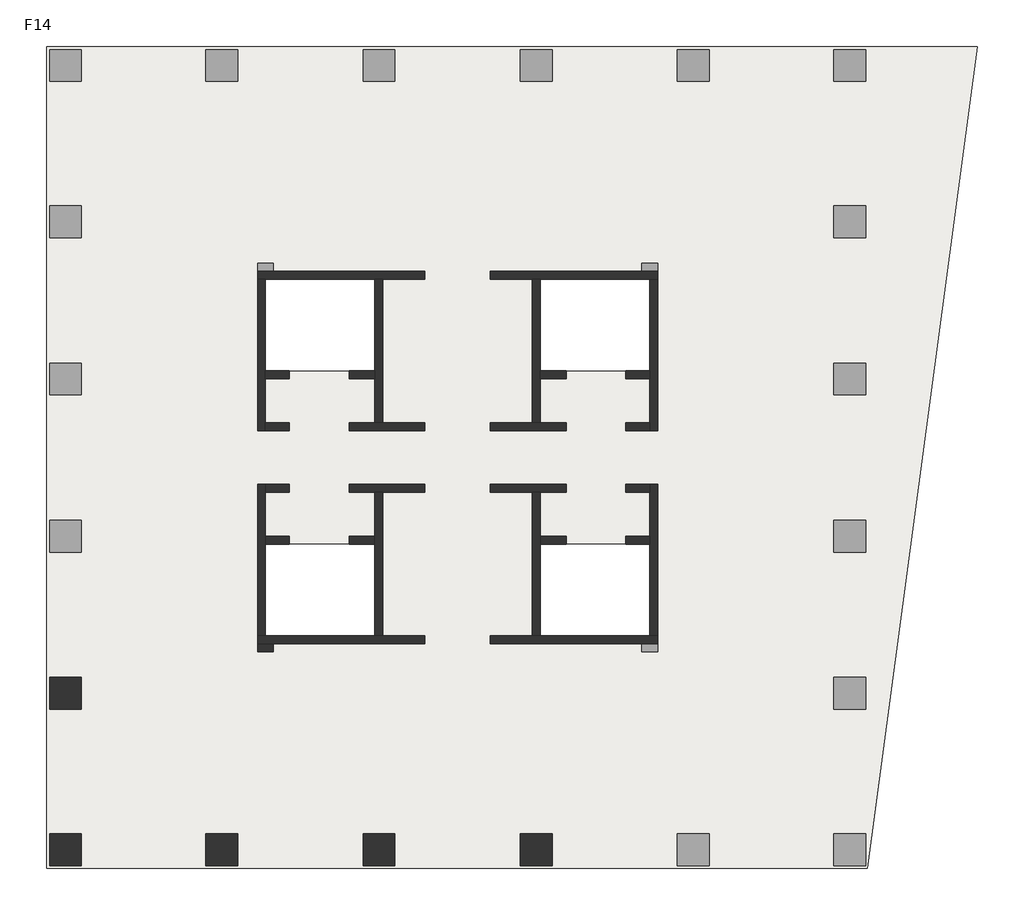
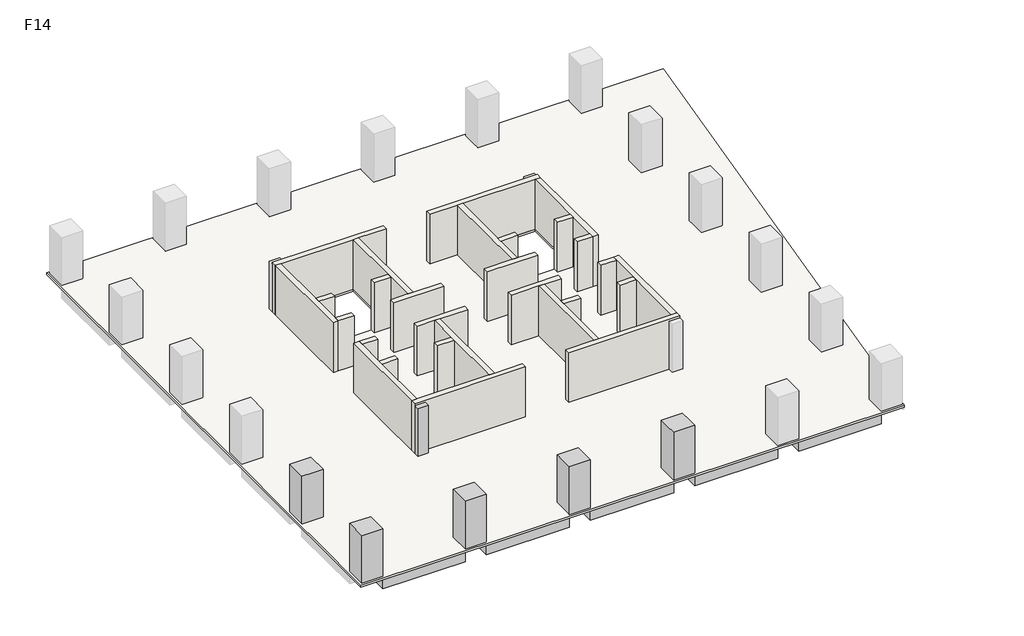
# One storey, part 1 of 2: 28 walls, 6 columns, 5 beams, 1 slab.
"""IFC4 building model written with IfcOpenShell, lengths in millimetres."""

from ifc_helpers import new_model, si_unit, frame, origin, place, context, project, spatial, polyline, outline, extrude, faceted_brep, element, save

model = new_model("IFC4")

# Units and contexts
model_context = context("Model", 3, world=origin())
ifc_project = project(units=[si_unit("LENGTHUNIT", "METRE", prefix="MILLI")], contexts=[model_context])

# Site, building, storey
site = spatial("IfcSite", under=ifc_project)
building = spatial("IfcBuilding", under=site)
storey = spatial("IfcBuildingStorey", under=building, Name="F14", Elevation=56000.0)

# Beams
placement = place(None, origin())
element("IfcBeam", 1, ObjectType="混凝土 - 矩形梁 : KL(5)-800x1000", at=placement, inside=storey, context=model_context, shape_type="SweptSolid", body=[
    extrude(outline(polyline([(-12472.6742169, -13948.9501342), (-12472.6742169, -13148.9501342), (-6222.6742169, -13148.9501342), (-6222.6742169, -13948.9501342), (-12472.6742169, -13948.9501342)])), frame((0.0, 0.0, 55000.0), z_axis=(0.0, 0.0, 1.0), x_axis=(1.0, 0.0, 0.0)), (0.0, 0.0, 1.0), 840.0),
    extrude(outline(polyline([(25327.3257831, -13148.9501342), (25327.3257831, -13948.9501342), (19077.3257831, -13948.9501342), (19077.3257831, -13148.9501342), (25327.3257831, -13148.9501342)])), frame((0.0, 0.0, 55000.0), z_axis=(0.0, 0.0, 1.0), x_axis=(1.0, 0.0, 0.0)), (0.0, 0.0, 1.0), 840.0),
    extrude(outline(polyline([(-4622.6742169, -13948.9501342), (-4622.6742169, -13148.9501342), (1677.3257831, -13148.9501342), (1677.3257831, -13948.9501342), (-4622.6742169, -13948.9501342)])), frame((0.0, 0.0, 55000.0), z_axis=(0.0, 0.0, 1.0), x_axis=(1.0, 0.0, 0.0)), (0.0, 0.0, 1.0), 840.0),
    extrude(outline(polyline([(3277.3257831, -13948.9501342), (3277.3257831, -13148.9501342), (9577.3257831, -13148.9501342), (9577.3257831, -13948.9501342), (3277.3257831, -13948.9501342)])), frame((0.0, 0.0, 55000.0), z_axis=(0.0, 0.0, 1.0), x_axis=(1.0, 0.0, 0.0)), (0.0, 0.0, 1.0), 840.0),
    extrude(outline(polyline([(11177.3257831, -13948.9501342), (11177.3257831, -13148.9501342), (17477.3257831, -13148.9501342), (17477.3257831, -13948.9501342), (11177.3257831, -13948.9501342)])), frame((0.0, 0.0, 55000.0), z_axis=(0.0, 0.0, 1.0), x_axis=(1.0, 0.0, 0.0)), (0.0, 0.0, 1.0), 840.0),
])
element("IfcBeam", 2, ObjectType="混凝土 - 矩形梁 : L1-800x500", at=placement, inside=storey, context=model_context, shape_type="Brep", body=[
    faceted_brep([(-12472.6742169, -5512.1353397, 55500.0), (-3746.9473979, -3341.556529, 55500.0), (-3173.6696907, -3198.9501342, 55500.0), (-3173.6696907, -3198.9501342, 55840.0), (-3746.9473979, -3341.556529, 55840.0), (-12472.6742169, -5512.1353397, 55840.0), (-3622.6742169, -3198.9501342, 55500.0), (-12472.6742169, -4687.7549784, 55500.0), (-3622.6742169, -2486.2624411, 55500.0), (-3622.6742169, -2798.9501342, 55500.0), (-12472.6742169, -4687.7549784, 55840.0), (-3622.6742169, -2486.2624411, 55840.0), (-3622.6742169, -3198.9501342, 55840.0)], [[[0, 1, 2, 3, 4, 5]], [[6, 2, 1, 0, 7, 8, 9]], [[8, 7, 10, 11]], [[2, 6, 12, 3]], [[9, 8, 11, 12, 6]], [[7, 0, 5, 10]], [[5, 4, 3, 12, 11, 10]]]),
])
element("IfcBeam", 3, ObjectType="混凝土 - 矩形梁 : L1-800x500", at=placement, inside=storey, context=model_context, shape_type="SweptSolid", body=[
    extrude(outline(polyline([(-3746.9473979, -3341.556529), (-3173.6696907, -3198.9501342), (-2898.7618154, -3198.9501342), (-4843.6893517, -12348.9501342), (-5661.5624638, -12348.9501342), (-3746.9473979, -3341.556529)])), frame((0.0, 0.0, 55500.0), z_axis=(0.0, 0.0, 1.0), x_axis=(1.0, 0.0, 0.0)), (0.0, 0.0, 1.0), 340.0),
])
element("IfcBeam", 4, ObjectType="混凝土 - 矩形梁 : L1-800x500", at=placement, inside=storey, context=model_context, shape_type="SweptSolid", body=[
    extrude(outline(polyline([(2877.3257831, -12348.9501342), (2077.3257831, -12348.9501342), (2077.3257831, -2798.9501342), (2877.3257831, -2798.9501342), (2877.3257831, -12348.9501342)])), frame((0.0, 0.0, 55500.0), z_axis=(0.0, 0.0, 1.0), x_axis=(1.0, 0.0, 0.0)), (0.0, 0.0, 1.0), 340.0),
])
element("IfcBeam", 5, ObjectType="混凝土 - 矩形梁 : L1-800x500", at=placement, inside=storey, context=model_context, shape_type="SweptSolid", body=[
    extrude(outline(polyline([(10777.3257831, -12348.9501342), (9977.3257831, -12348.9501342), (9977.3257831, -2798.9501342), (10777.3257831, -2798.9501342), (10777.3257831, -12348.9501342)])), frame((0.0, 0.0, 55500.0), z_axis=(0.0, 0.0, 1.0), x_axis=(1.0, 0.0, 0.0)), (0.0, 0.0, 1.0), 340.0),
])

# Columns
element("IfcColumn", 6, ObjectType="混凝土 - 矩形 - 柱 : Z1-1600x1600", at=placement, inside=storey, context=model_context, shape_type="Brep", body=[
    faceted_brep([(-12472.6742169, -4498.9501342, 56000.0), (-12472.6742169, -6098.9501342, 56000.0), (-14072.6742169, -6098.9501342, 56000.0), (-14072.6742169, -4498.9501342, 56000.0), (-12472.6742169, -4498.9501342, 59840.0), (-12472.6742169, -6098.9501342, 59840.0), (-13272.6742169, -6098.9501342, 59840.0), (-14072.6742169, -6098.9501342, 59840.0), (-14072.6742169, -6098.9501342, 59000.0), (-14072.6742169, -4498.9501342, 59840.0), (-14072.6742169, -4498.9501342, 59000.0), (-13272.6742169, -4498.9501342, 59840.0)], [[[0, 1, 2, 3]], [[1, 0, 4, 5]], [[2, 1, 5, 6, 7, 8]], [[3, 2, 8, 7, 9, 10]], [[0, 3, 10, 9, 11, 4]], [[5, 4, 11, 9, 7, 6]]]),
])
element("IfcColumn", 7, ObjectType="混凝土 - 矩形 - 柱 : Z1-1600x1600", at=placement, inside=storey, context=model_context, shape_type="SweptSolid", body=[
    extrude(outline(polyline([(-12472.6742169, -12348.9501342), (-12472.6742169, -13948.9501342), (-14072.6742169, -13948.9501342), (-14072.6742169, -12348.9501342), (-12472.6742169, -12348.9501342)])), frame((0.0, 0.0, 56000.0), z_axis=(0.0, 0.0, 1.0), x_axis=(1.0, 0.0, 0.0)), (0.0, 0.0, 1.0), 3840.0),
])
element("IfcColumn", 8, ObjectType="混凝土 - 矩形 - 柱 : Z1-1600x1600", at=placement, inside=storey, context=model_context, shape_type="Brep", body=[
    faceted_brep([(-4622.6742169, -12348.9501342, 56000.0), (-4622.6742169, -13948.9501342, 56000.0), (-6222.6742169, -13948.9501342, 56000.0), (-6222.6742169, -12348.9501342, 56000.0), (-4622.6742169, -12348.9501342, 59840.0), (-4622.6742169, -13148.9501342, 59840.0), (-4622.6742169, -13948.9501342, 59840.0), (-4622.6742169, -13948.9501342, 59000.0), (-6222.6742169, -13948.9501342, 59840.0), (-6222.6742169, -13948.9501342, 59000.0), (-6222.6742169, -13148.9501342, 59840.0), (-6222.6742169, -12348.9501342, 59840.0)], [[[0, 1, 2, 3]], [[1, 0, 4, 5, 6, 7]], [[2, 1, 7, 6, 8, 9]], [[3, 2, 9, 8, 10, 11]], [[0, 3, 11, 4]], [[6, 5, 4, 11, 10, 8]]]),
])
element("IfcColumn", 9, ObjectType="混凝土 - 矩形 - 柱 : Z1-1600x1600", at=placement, inside=storey, context=model_context, shape_type="Brep", body=[
    faceted_brep([(3277.3257831, -12348.9501342, 56000.0), (3277.3257831, -13948.9501342, 56000.0), (1677.3257831, -13948.9501342, 56000.0), (1677.3257831, -12348.9501342, 56000.0), (3277.3257831, -12348.9501342, 59840.0), (3277.3257831, -13148.9501342, 59840.0), (3277.3257831, -13948.9501342, 59840.0), (3277.3257831, -13948.9501342, 59000.0), (1677.3257831, -13948.9501342, 59840.0), (1677.3257831, -13948.9501342, 59000.0), (1677.3257831, -13148.9501342, 59840.0), (1677.3257831, -12348.9501342, 59840.0)], [[[0, 1, 2, 3]], [[1, 0, 4, 5, 6, 7]], [[2, 1, 7, 6, 8, 9]], [[3, 2, 9, 8, 10, 11]], [[0, 3, 11, 4]], [[6, 5, 4, 11, 10, 8]]]),
])
element("IfcColumn", 10, ObjectType="混凝土 - 矩形 - 柱 : Z1-1600x1600", at=placement, inside=storey, context=model_context, shape_type="Brep", body=[
    faceted_brep([(11177.3257831, -12348.9501342, 56000.0), (11177.3257831, -13948.9501342, 56000.0), (9577.3257831, -13948.9501342, 56000.0), (9577.3257831, -12348.9501342, 56000.0), (11177.3257831, -12348.9501342, 59840.0), (11177.3257831, -13148.9501342, 59840.0), (11177.3257831, -13948.9501342, 59840.0), (11177.3257831, -13948.9501342, 59000.0), (9577.3257831, -13948.9501342, 59840.0), (9577.3257831, -13948.9501342, 59000.0), (9577.3257831, -13148.9501342, 59840.0), (9577.3257831, -12348.9501342, 59840.0)], [[[0, 1, 2, 3]], [[1, 0, 4, 5, 6, 7]], [[2, 1, 7, 6, 8, 9]], [[3, 2, 9, 8, 10, 11]], [[0, 3, 11, 4]], [[6, 5, 4, 11, 10, 8]]]),
])
element("IfcColumn", 11, ObjectType="混凝土 - 矩形 - 柱 : Z2-800x800", at=placement, inside=storey, context=model_context, shape_type="SweptSolid", body=[
    extrude(outline(polyline([(-2822.6742169, -3198.9501342), (-3622.6742169, -3198.9501342), (-3622.6742169, -2798.9501342), (-2822.6742169, -2798.9501342), (-2822.6742169, -3198.9501342)])), frame((0.0, 0.0, 56000.0), z_axis=(0.0, 0.0, 1.0), x_axis=(1.0, 0.0, 0.0)), (0.0, 0.0, 1.0), 3840.0),
])

# Slab
element("IfcSlab", 12, ObjectType="LB-160", at=placement, inside=storey, context=model_context, shape_type="Brep", body=[
    faceted_brep([(32549.4477343, 27201.0498658, 55840.0), (32422.0087099, 26251.0498658, 55840.0), (27029.3257831, -13948.9501342, 55840.0), (27011.0393465, -14085.2672073, 55840.0), (-14222.6742169, -14085.2672073, 55840.0), (-14222.6742169, 27201.0498658, 55840.0), (2277.3257831, 15501.0498658, 55840.0), (-3222.6742169, 15501.0498658, 55840.0), (-3222.6742169, 10901.0498658, 55840.0), (2277.3257831, 10901.0498658, 55840.0), (2277.3257831, 2201.0498658, 55840.0), (-3222.6742169, 2201.0498658, 55840.0), (-3222.6742169, -2398.9501342, 55840.0), (2277.3257831, -2398.9501342, 55840.0), (16077.3257831, 2201.0498658, 55840.0), (10577.3257831, 2201.0498658, 55840.0), (10577.3257831, -2398.9501342, 55840.0), (16077.3257831, -2398.9501342, 55840.0), (16077.3257831, 15501.0498658, 55840.0), (10577.3257831, 15501.0498658, 55840.0), (10577.3257831, 10901.0498658, 55840.0), (16077.3257831, 10901.0498658, 55840.0), (32549.4477343, 27201.0498658, 56000.0), (-14222.6742169, 27201.0498658, 56000.0), (-14222.6742169, -14085.2672073, 56000.0), (27011.0393465, -14085.2672073, 56000.0), (2277.3257831, 15501.0498658, 56000.0), (2277.3257831, 10901.0498658, 56000.0), (-3222.6742169, 10901.0498658, 56000.0), (-3222.6742169, 15501.0498658, 56000.0), (2277.3257831, 2201.0498658, 56000.0), (2277.3257831, -2398.9501342, 56000.0), (-3222.6742169, -2398.9501342, 56000.0), (-3222.6742169, 2201.0498658, 56000.0), (16077.3257831, 2201.0498658, 56000.0), (16077.3257831, -2398.9501342, 56000.0), (10577.3257831, -2398.9501342, 56000.0), (10577.3257831, 2201.0498658, 56000.0), (16077.3257831, 15501.0498658, 56000.0), (16077.3257831, 10901.0498658, 56000.0), (10577.3257831, 10901.0498658, 56000.0), (10577.3257831, 15501.0498658, 56000.0)], [[[0, 1, 2, 3, 4, 5], [6, 7, 8, 9], [10, 11, 12, 13], [14, 15, 16, 17], [18, 19, 20, 21]], [[22, 23, 24, 25], [26, 27, 28, 29], [30, 31, 32, 33], [34, 35, 36, 37], [38, 39, 40, 41]], [[3, 2, 1, 0, 22, 25]], [[4, 3, 25, 24]], [[5, 4, 24, 23]], [[0, 5, 23, 22]], [[7, 6, 26, 29]], [[8, 7, 29, 28]], [[9, 8, 28, 27]], [[6, 9, 27, 26]], [[11, 10, 30, 33]], [[12, 11, 33, 32]], [[13, 12, 32, 31]], [[10, 13, 31, 30]], [[15, 14, 34, 37]], [[16, 15, 37, 36]], [[17, 16, 36, 35]], [[14, 17, 35, 34]], [[19, 18, 38, 41]], [[20, 19, 41, 40]], [[21, 20, 40, 39]], [[18, 21, 39, 38]]]),
])

# Walls
element("IfcWall", 13, ObjectType="剪力墙-400", at=placement, inside=storey, context=model_context, shape_type="Brep", body=[
    faceted_brep([(-3622.6742169, 15501.0498658, 56000.0), (-3222.6742169, 15501.0498658, 56000.0), (2277.3257831, 15501.0498658, 56000.0), (2677.3257831, 15501.0498658, 56000.0), (4777.3257831, 15501.0498658, 56000.0), (4777.3257831, 15501.0498658, 60000.0), (2677.3257831, 15501.0498658, 60000.0), (2277.3257831, 15501.0498658, 60000.0), (-3222.6742169, 15501.0498658, 60000.0), (-3622.6742169, 15501.0498658, 60000.0), (-3622.6742169, 15901.0498658, 56000.0), (-3622.6742169, 15901.0498658, 59840.0), (-3622.6742169, 15901.0498658, 60000.0), (4777.3257831, 15901.0498658, 60000.0), (4777.3257831, 15901.0498658, 56000.0), (-2822.6742169, 15901.0498658, 56000.0)], [[[0, 1, 2, 3, 4, 5, 6, 7, 8, 9]], [[10, 11, 12, 13, 14, 15]], [[4, 3, 2, 1, 0, 10, 15, 14]], [[5, 4, 14, 13]], [[9, 8, 7, 6, 5, 13, 12]], [[0, 9, 12, 11, 10]]]),
])
element("IfcWall", 14, ObjectType="剪力墙-400", at=placement, inside=storey, context=model_context, shape_type="Brep", body=[
    faceted_brep([(2277.3257831, 15501.0498658, 56000.0), (2277.3257831, 10901.0498658, 56000.0), (2277.3257831, 10501.0498658, 56000.0), (2277.3257831, 8301.0498658, 56000.0), (2277.3257831, 8301.0498658, 60000.0), (2277.3257831, 10501.0498658, 60000.0), (2277.3257831, 10901.0498658, 60000.0), (2277.3257831, 15501.0498658, 60000.0), (2677.3257831, 15501.0498658, 56000.0), (2677.3257831, 15501.0498658, 60000.0), (2677.3257831, 8301.0498658, 60000.0), (2677.3257831, 8301.0498658, 56000.0)], [[[0, 1, 2, 3, 4, 5, 6, 7]], [[8, 9, 10, 11]], [[3, 2, 1, 0, 8, 11]], [[7, 6, 5, 4, 10, 9]], [[0, 7, 9, 8]], [[4, 3, 11, 10]]]),
])
element("IfcWall", 15, ObjectType="剪力墙-400", at=placement, inside=storey, context=model_context, shape_type="Brep", body=[
    faceted_brep([(-3622.6742169, 15501.0498658, 56000.0), (-3622.6742169, 7901.0498658, 56000.0), (-3622.6742169, 7901.0498658, 60000.0), (-3622.6742169, 15501.0498658, 60000.0), (-3222.6742169, 15501.0498658, 56000.0), (-3222.6742169, 15501.0498658, 60000.0), (-3222.6742169, 10901.0498658, 60000.0), (-3222.6742169, 10501.0498658, 60000.0), (-3222.6742169, 8301.0498658, 60000.0), (-3222.6742169, 7901.0498658, 60000.0), (-3222.6742169, 7901.0498658, 56000.0), (-3222.6742169, 8301.0498658, 56000.0), (-3222.6742169, 10501.0498658, 56000.0), (-3222.6742169, 10901.0498658, 56000.0)], [[[0, 1, 2, 3]], [[4, 5, 6, 7, 8, 9, 10, 11, 12, 13]], [[1, 0, 4, 13, 12, 11, 10]], [[3, 2, 9, 8, 7, 6, 5]], [[0, 3, 5, 4]], [[2, 1, 10, 9]]]),
])
element("IfcWall", 16, ObjectType="剪力墙-400", at=placement, inside=storey, context=model_context, shape_type="SweptSolid", body=[
    extrude(outline(polyline([(-2022.6742169, 7901.0498658), (-3222.6742169, 7901.0498658), (-3222.6742169, 8301.0498658), (-2022.6742169, 8301.0498658), (-2022.6742169, 7901.0498658)])), frame((0.0, 0.0, 56000.0), z_axis=(0.0, 0.0, 1.0), x_axis=(1.0, 0.0, 0.0)), (0.0, 0.0, 1.0), 4000.0),
])
element("IfcWall", 17, ObjectType="剪力墙-400", at=placement, inside=storey, context=model_context, shape_type="Brep", body=[
    faceted_brep([(977.3257831, 7901.0498658, 56000.0), (4777.3257831, 7901.0498658, 56000.0), (4777.3257831, 7901.0498658, 60000.0), (977.3257831, 7901.0498658, 60000.0), (977.3257831, 8301.0498658, 56000.0), (977.3257831, 8301.0498658, 60000.0), (2277.3257831, 8301.0498658, 60000.0), (2677.3257831, 8301.0498658, 60000.0), (4777.3257831, 8301.0498658, 60000.0), (4777.3257831, 8301.0498658, 56000.0), (2677.3257831, 8301.0498658, 56000.0), (2277.3257831, 8301.0498658, 56000.0)], [[[0, 1, 2, 3]], [[4, 5, 6, 7, 8, 9, 10, 11]], [[1, 0, 4, 11, 10, 9]], [[2, 1, 9, 8]], [[3, 2, 8, 7, 6, 5]], [[0, 3, 5, 4]]]),
])
element("IfcWall", 18, ObjectType="剪力墙-400", at=placement, inside=storey, context=model_context, shape_type="SweptSolid", body=[
    extrude(outline(polyline([(-2022.6742169, 10501.0498658), (-3222.6742169, 10501.0498658), (-3222.6742169, 10901.0498658), (-2022.6742169, 10901.0498658), (-2022.6742169, 10501.0498658)])), frame((0.0, 0.0, 56000.0), z_axis=(0.0, 0.0, 1.0), x_axis=(1.0, 0.0, 0.0)), (0.0, 0.0, 1.0), 4000.0),
])
element("IfcWall", 19, ObjectType="剪力墙-400", at=placement, inside=storey, context=model_context, shape_type="SweptSolid", body=[
    extrude(outline(polyline([(2277.3257831, 10501.0498658), (977.3257831, 10501.0498658), (977.3257831, 10901.0498658), (2277.3257831, 10901.0498658), (2277.3257831, 10501.0498658)])), frame((0.0, 0.0, 56000.0), z_axis=(0.0, 0.0, 1.0), x_axis=(1.0, 0.0, 0.0)), (0.0, 0.0, 1.0), 4000.0),
])
element("IfcWall", 20, ObjectType="剪力墙-400", at=placement, inside=storey, context=model_context, shape_type="Brep", body=[
    faceted_brep([(16477.3257831, 15901.0498658, 56000.0), (15677.3257831, 15901.0498658, 56000.0), (8077.3257831, 15901.0498658, 56000.0), (8077.3257831, 15901.0498658, 60000.0), (16477.3257831, 15901.0498658, 60000.0), (16477.3257831, 15901.0498658, 59840.0), (16477.3257831, 15501.0498658, 56000.0), (16477.3257831, 15501.0498658, 60000.0), (16077.3257831, 15501.0498658, 60000.0), (10577.3257831, 15501.0498658, 60000.0), (10177.3257831, 15501.0498658, 60000.0), (8077.3257831, 15501.0498658, 60000.0), (8077.3257831, 15501.0498658, 56000.0), (10177.3257831, 15501.0498658, 56000.0), (10577.3257831, 15501.0498658, 56000.0), (16077.3257831, 15501.0498658, 56000.0)], [[[0, 1, 2, 3, 4, 5]], [[6, 7, 8, 9, 10, 11, 12, 13, 14, 15]], [[2, 1, 0, 6, 15, 14, 13, 12]], [[3, 2, 12, 11]], [[4, 3, 11, 10, 9, 8, 7]], [[0, 5, 4, 7, 6]]]),
])
element("IfcWall", 21, ObjectType="剪力墙-400", at=placement, inside=storey, context=model_context, shape_type="Brep", body=[
    faceted_brep([(10177.3257831, 15501.0498658, 56000.0), (10177.3257831, 8301.0498658, 56000.0), (10177.3257831, 8301.0498658, 60000.0), (10177.3257831, 15501.0498658, 60000.0), (10577.3257831, 15501.0498658, 56000.0), (10577.3257831, 15501.0498658, 60000.0), (10577.3257831, 10901.0498658, 60000.0), (10577.3257831, 10501.0498658, 60000.0), (10577.3257831, 8301.0498658, 60000.0), (10577.3257831, 8301.0498658, 56000.0), (10577.3257831, 10501.0498658, 56000.0), (10577.3257831, 10901.0498658, 56000.0)], [[[0, 1, 2, 3]], [[4, 5, 6, 7, 8, 9, 10, 11]], [[1, 0, 4, 11, 10, 9]], [[3, 2, 8, 7, 6, 5]], [[0, 3, 5, 4]], [[2, 1, 9, 8]]]),
])
element("IfcWall", 22, ObjectType="剪力墙-400", at=placement, inside=storey, context=model_context, shape_type="Brep", body=[
    faceted_brep([(16077.3257831, 15501.0498658, 56000.0), (16077.3257831, 10901.0498658, 56000.0), (16077.3257831, 10501.0498658, 56000.0), (16077.3257831, 8301.0498658, 56000.0), (16077.3257831, 7901.0498658, 56000.0), (16077.3257831, 7901.0498658, 60000.0), (16077.3257831, 8301.0498658, 60000.0), (16077.3257831, 10501.0498658, 60000.0), (16077.3257831, 10901.0498658, 60000.0), (16077.3257831, 15501.0498658, 60000.0), (16477.3257831, 15501.0498658, 56000.0), (16477.3257831, 15501.0498658, 60000.0), (16477.3257831, 7901.0498658, 60000.0), (16477.3257831, 7901.0498658, 56000.0)], [[[0, 1, 2, 3, 4, 5, 6, 7, 8, 9]], [[10, 11, 12, 13]], [[4, 3, 2, 1, 0, 10, 13]], [[9, 8, 7, 6, 5, 12, 11]], [[0, 9, 11, 10]], [[5, 4, 13, 12]]]),
])
element("IfcWall", 23, ObjectType="剪力墙-400", at=placement, inside=storey, context=model_context, shape_type="SweptSolid", body=[
    extrude(outline(polyline([(14877.3257831, 8301.0498658), (16077.3257831, 8301.0498658), (16077.3257831, 7901.0498658), (14877.3257831, 7901.0498658), (14877.3257831, 8301.0498658)])), frame((0.0, 0.0, 56000.0), z_axis=(0.0, 0.0, 1.0), x_axis=(1.0, 0.0, 0.0)), (0.0, 0.0, 1.0), 4000.0),
])
element("IfcWall", 24, ObjectType="剪力墙-400", at=placement, inside=storey, context=model_context, shape_type="Brep", body=[
    faceted_brep([(11877.3257831, 8301.0498658, 56000.0), (10577.3257831, 8301.0498658, 56000.0), (10177.3257831, 8301.0498658, 56000.0), (8077.3257831, 8301.0498658, 56000.0), (8077.3257831, 8301.0498658, 60000.0), (10177.3257831, 8301.0498658, 60000.0), (10577.3257831, 8301.0498658, 60000.0), (11877.3257831, 8301.0498658, 60000.0), (11877.3257831, 7901.0498658, 56000.0), (11877.3257831, 7901.0498658, 60000.0), (8077.3257831, 7901.0498658, 60000.0), (8077.3257831, 7901.0498658, 56000.0)], [[[0, 1, 2, 3, 4, 5, 6, 7]], [[8, 9, 10, 11]], [[3, 2, 1, 0, 8, 11]], [[4, 3, 11, 10]], [[7, 6, 5, 4, 10, 9]], [[0, 7, 9, 8]]]),
])
element("IfcWall", 25, ObjectType="剪力墙-400", at=placement, inside=storey, context=model_context, shape_type="SweptSolid", body=[
    extrude(outline(polyline([(14877.3257831, 10901.0498658), (16077.3257831, 10901.0498658), (16077.3257831, 10501.0498658), (14877.3257831, 10501.0498658), (14877.3257831, 10901.0498658)])), frame((0.0, 0.0, 56000.0), z_axis=(0.0, 0.0, 1.0), x_axis=(1.0, 0.0, 0.0)), (0.0, 0.0, 1.0), 4000.0),
])
element("IfcWall", 26, ObjectType="剪力墙-400", at=placement, inside=storey, context=model_context, shape_type="SweptSolid", body=[
    extrude(outline(polyline([(10577.3257831, 10901.0498658), (11877.3257831, 10901.0498658), (11877.3257831, 10501.0498658), (10577.3257831, 10501.0498658), (10577.3257831, 10901.0498658)])), frame((0.0, 0.0, 56000.0), z_axis=(0.0, 0.0, 1.0), x_axis=(1.0, 0.0, 0.0)), (0.0, 0.0, 1.0), 4000.0),
])
element("IfcWall", 27, ObjectType="剪力墙-400", at=placement, inside=storey, context=model_context, shape_type="Brep", body=[
    faceted_brep([(-3622.6742169, -2798.9501342, 56000.0), (-2822.6742169, -2798.9501342, 56000.0), (4777.3257831, -2798.9501342, 56000.0), (4777.3257831, -2798.9501342, 60000.0), (-3622.6742169, -2798.9501342, 60000.0), (-3622.6742169, -2798.9501342, 59840.0), (-3622.6742169, -2398.9501342, 56000.0), (-3622.6742169, -2398.9501342, 60000.0), (-3222.6742169, -2398.9501342, 60000.0), (2277.3257831, -2398.9501342, 60000.0), (2677.3257831, -2398.9501342, 60000.0), (4777.3257831, -2398.9501342, 60000.0), (4777.3257831, -2398.9501342, 56000.0), (2677.3257831, -2398.9501342, 56000.0), (2277.3257831, -2398.9501342, 56000.0), (-3222.6742169, -2398.9501342, 56000.0)], [[[0, 1, 2, 3, 4, 5]], [[6, 7, 8, 9, 10, 11, 12, 13, 14, 15]], [[2, 1, 0, 6, 15, 14, 13, 12]], [[3, 2, 12, 11]], [[4, 3, 11, 10, 9, 8, 7]], [[0, 5, 4, 7, 6]]]),
])
element("IfcWall", 28, ObjectType="剪力墙-400", at=placement, inside=storey, context=model_context, shape_type="Brep", body=[
    faceted_brep([(2677.3257831, -2398.9501342, 56000.0), (2677.3257831, 4801.0498658, 56000.0), (2677.3257831, 4801.0498658, 60000.0), (2677.3257831, -2398.9501342, 60000.0), (2277.3257831, -2398.9501342, 56000.0), (2277.3257831, -2398.9501342, 60000.0), (2277.3257831, 2201.0498658, 60000.0), (2277.3257831, 2601.0498658, 60000.0), (2277.3257831, 4801.0498658, 60000.0), (2277.3257831, 4801.0498658, 56000.0), (2277.3257831, 2601.0498658, 56000.0), (2277.3257831, 2201.0498658, 56000.0)], [[[0, 1, 2, 3]], [[4, 5, 6, 7, 8, 9, 10, 11]], [[1, 0, 4, 11, 10, 9]], [[3, 2, 8, 7, 6, 5]], [[0, 3, 5, 4]], [[2, 1, 9, 8]]]),
])
element("IfcWall", 29, ObjectType="剪力墙-400", at=placement, inside=storey, context=model_context, shape_type="Brep", body=[
    faceted_brep([(-3222.6742169, -2398.9501342, 56000.0), (-3222.6742169, 2201.0498658, 56000.0), (-3222.6742169, 2601.0498658, 56000.0), (-3222.6742169, 4801.0498658, 56000.0), (-3222.6742169, 5201.0498658, 56000.0), (-3222.6742169, 5201.0498658, 60000.0), (-3222.6742169, 4801.0498658, 60000.0), (-3222.6742169, 2601.0498658, 60000.0), (-3222.6742169, 2201.0498658, 60000.0), (-3222.6742169, -2398.9501342, 60000.0), (-3622.6742169, -2398.9501342, 56000.0), (-3622.6742169, -2398.9501342, 60000.0), (-3622.6742169, 5201.0498658, 60000.0), (-3622.6742169, 5201.0498658, 56000.0)], [[[0, 1, 2, 3, 4, 5, 6, 7, 8, 9]], [[10, 11, 12, 13]], [[4, 3, 2, 1, 0, 10, 13]], [[9, 8, 7, 6, 5, 12, 11]], [[0, 9, 11, 10]], [[5, 4, 13, 12]]]),
])
element("IfcWall", 30, ObjectType="剪力墙-400", at=placement, inside=storey, context=model_context, shape_type="SweptSolid", body=[
    extrude(outline(polyline([(-2022.6742169, 4801.0498658), (-3222.6742169, 4801.0498658), (-3222.6742169, 5201.0498658), (-2022.6742169, 5201.0498658), (-2022.6742169, 4801.0498658)])), frame((0.0, 0.0, 56000.0), z_axis=(0.0, 0.0, 1.0), x_axis=(1.0, 0.0, 0.0)), (0.0, 0.0, 1.0), 4000.0),
])
element("IfcWall", 31, ObjectType="剪力墙-400", at=placement, inside=storey, context=model_context, shape_type="Brep", body=[
    faceted_brep([(977.3257831, 4801.0498658, 56000.0), (2277.3257831, 4801.0498658, 56000.0), (2677.3257831, 4801.0498658, 56000.0), (4777.3257831, 4801.0498658, 56000.0), (4777.3257831, 4801.0498658, 60000.0), (2677.3257831, 4801.0498658, 60000.0), (2277.3257831, 4801.0498658, 60000.0), (977.3257831, 4801.0498658, 60000.0), (977.3257831, 5201.0498658, 56000.0), (977.3257831, 5201.0498658, 60000.0), (4777.3257831, 5201.0498658, 60000.0), (4777.3257831, 5201.0498658, 56000.0)], [[[0, 1, 2, 3, 4, 5, 6, 7]], [[8, 9, 10, 11]], [[3, 2, 1, 0, 8, 11]], [[4, 3, 11, 10]], [[7, 6, 5, 4, 10, 9]], [[0, 7, 9, 8]]]),
])
element("IfcWall", 32, ObjectType="剪力墙-400", at=placement, inside=storey, context=model_context, shape_type="SweptSolid", body=[
    extrude(outline(polyline([(-2022.6742169, 2201.0498658), (-3222.6742169, 2201.0498658), (-3222.6742169, 2601.0498658), (-2022.6742169, 2601.0498658), (-2022.6742169, 2201.0498658)])), frame((0.0, 0.0, 56000.0), z_axis=(0.0, 0.0, 1.0), x_axis=(1.0, 0.0, 0.0)), (0.0, 0.0, 1.0), 4000.0),
])
element("IfcWall", 33, ObjectType="剪力墙-400", at=placement, inside=storey, context=model_context, shape_type="SweptSolid", body=[
    extrude(outline(polyline([(2277.3257831, 2201.0498658), (977.3257831, 2201.0498658), (977.3257831, 2601.0498658), (2277.3257831, 2601.0498658), (2277.3257831, 2201.0498658)])), frame((0.0, 0.0, 56000.0), z_axis=(0.0, 0.0, 1.0), x_axis=(1.0, 0.0, 0.0)), (0.0, 0.0, 1.0), 4000.0),
])
element("IfcWall", 34, ObjectType="剪力墙-400", at=placement, inside=storey, context=model_context, shape_type="Brep", body=[
    faceted_brep([(16477.3257831, -2398.9501342, 56000.0), (16077.3257831, -2398.9501342, 56000.0), (10577.3257831, -2398.9501342, 56000.0), (10177.3257831, -2398.9501342, 56000.0), (8077.3257831, -2398.9501342, 56000.0), (8077.3257831, -2398.9501342, 60000.0), (10177.3257831, -2398.9501342, 60000.0), (10577.3257831, -2398.9501342, 60000.0), (16077.3257831, -2398.9501342, 60000.0), (16477.3257831, -2398.9501342, 60000.0), (16477.3257831, -2798.9501342, 56000.0), (16477.3257831, -2798.9501342, 59840.0), (16477.3257831, -2798.9501342, 60000.0), (8077.3257831, -2798.9501342, 60000.0), (8077.3257831, -2798.9501342, 56000.0), (15677.3257831, -2798.9501342, 56000.0)], [[[0, 1, 2, 3, 4, 5, 6, 7, 8, 9]], [[10, 11, 12, 13, 14, 15]], [[4, 3, 2, 1, 0, 10, 15, 14]], [[5, 4, 14, 13]], [[9, 8, 7, 6, 5, 13, 12]], [[0, 9, 12, 11, 10]]]),
])
element("IfcWall", 35, ObjectType="剪力墙-400", at=placement, inside=storey, context=model_context, shape_type="Brep", body=[
    faceted_brep([(10577.3257831, -2398.9501342, 56000.0), (10577.3257831, 2201.0498658, 56000.0), (10577.3257831, 2601.0498658, 56000.0), (10577.3257831, 4801.0498658, 56000.0), (10577.3257831, 4801.0498658, 60000.0), (10577.3257831, 2601.0498658, 60000.0), (10577.3257831, 2201.0498658, 60000.0), (10577.3257831, -2398.9501342, 60000.0), (10177.3257831, -2398.9501342, 56000.0), (10177.3257831, -2398.9501342, 60000.0), (10177.3257831, 4801.0498658, 60000.0), (10177.3257831, 4801.0498658, 56000.0)], [[[0, 1, 2, 3, 4, 5, 6, 7]], [[8, 9, 10, 11]], [[3, 2, 1, 0, 8, 11]], [[7, 6, 5, 4, 10, 9]], [[0, 7, 9, 8]], [[4, 3, 11, 10]]]),
])
element("IfcWall", 36, ObjectType="剪力墙-400", at=placement, inside=storey, context=model_context, shape_type="Brep", body=[
    faceted_brep([(16477.3257831, -2398.9501342, 56000.0), (16477.3257831, 5201.0498658, 56000.0), (16477.3257831, 5201.0498658, 60000.0), (16477.3257831, -2398.9501342, 60000.0), (16077.3257831, -2398.9501342, 56000.0), (16077.3257831, -2398.9501342, 60000.0), (16077.3257831, 2201.0498658, 60000.0), (16077.3257831, 2601.0498658, 60000.0), (16077.3257831, 4801.0498658, 60000.0), (16077.3257831, 5201.0498658, 60000.0), (16077.3257831, 5201.0498658, 56000.0), (16077.3257831, 4801.0498658, 56000.0), (16077.3257831, 2601.0498658, 56000.0), (16077.3257831, 2201.0498658, 56000.0)], [[[0, 1, 2, 3]], [[4, 5, 6, 7, 8, 9, 10, 11, 12, 13]], [[1, 0, 4, 13, 12, 11, 10]], [[3, 2, 9, 8, 7, 6, 5]], [[0, 3, 5, 4]], [[2, 1, 10, 9]]]),
])
element("IfcWall", 37, ObjectType="剪力墙-400", at=placement, inside=storey, context=model_context, shape_type="SweptSolid", body=[
    extrude(outline(polyline([(14877.3257831, 5201.0498658), (16077.3257831, 5201.0498658), (16077.3257831, 4801.0498658), (14877.3257831, 4801.0498658), (14877.3257831, 5201.0498658)])), frame((0.0, 0.0, 56000.0), z_axis=(0.0, 0.0, 1.0), x_axis=(1.0, 0.0, 0.0)), (0.0, 0.0, 1.0), 4000.0),
])
element("IfcWall", 38, ObjectType="剪力墙-400", at=placement, inside=storey, context=model_context, shape_type="Brep", body=[
    faceted_brep([(11877.3257831, 5201.0498658, 56000.0), (8077.3257831, 5201.0498658, 56000.0), (8077.3257831, 5201.0498658, 60000.0), (11877.3257831, 5201.0498658, 60000.0), (11877.3257831, 4801.0498658, 56000.0), (11877.3257831, 4801.0498658, 60000.0), (10577.3257831, 4801.0498658, 60000.0), (10177.3257831, 4801.0498658, 60000.0), (8077.3257831, 4801.0498658, 60000.0), (8077.3257831, 4801.0498658, 56000.0), (10177.3257831, 4801.0498658, 56000.0), (10577.3257831, 4801.0498658, 56000.0)], [[[0, 1, 2, 3]], [[4, 5, 6, 7, 8, 9, 10, 11]], [[1, 0, 4, 11, 10, 9]], [[2, 1, 9, 8]], [[3, 2, 8, 7, 6, 5]], [[0, 3, 5, 4]]]),
])
element("IfcWall", 39, ObjectType="剪力墙-400", at=placement, inside=storey, context=model_context, shape_type="SweptSolid", body=[
    extrude(outline(polyline([(14877.3257831, 2601.0498658), (16077.3257831, 2601.0498658), (16077.3257831, 2201.0498658), (14877.3257831, 2201.0498658), (14877.3257831, 2601.0498658)])), frame((0.0, 0.0, 56000.0), z_axis=(0.0, 0.0, 1.0), x_axis=(1.0, 0.0, 0.0)), (0.0, 0.0, 1.0), 4000.0),
])
element("IfcWall", 40, ObjectType="剪力墙-400", at=placement, inside=storey, context=model_context, shape_type="SweptSolid", body=[
    extrude(outline(polyline([(10577.3257831, 2601.0498658), (11877.3257831, 2601.0498658), (11877.3257831, 2201.0498658), (10577.3257831, 2201.0498658), (10577.3257831, 2601.0498658)])), frame((0.0, 0.0, 56000.0), z_axis=(0.0, 0.0, 1.0), x_axis=(1.0, 0.0, 0.0)), (0.0, 0.0, 1.0), 4000.0),
])

save(model, "model.ifc")
